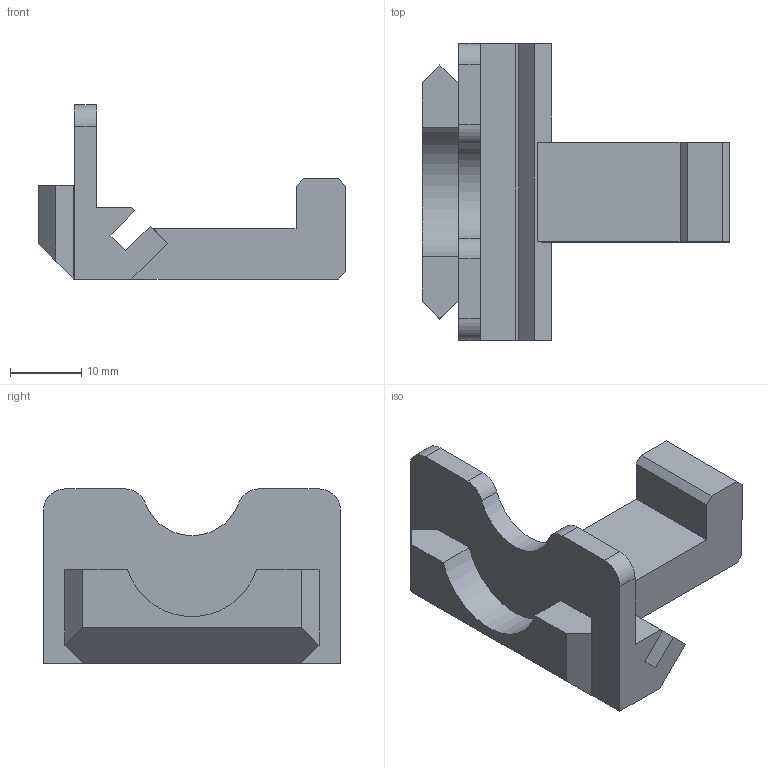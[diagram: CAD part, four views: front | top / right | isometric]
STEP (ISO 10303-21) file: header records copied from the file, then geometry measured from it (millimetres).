
FILE_DESCRIPTION(/* description */ ('','CAx-IF Rec.Pracs.---Representation and Presentation of Product Manufacturing Information (PMI)---4.0---2014-10-13'),/* implementation_level */ '2;1');
FILE_NAME(/* name */ 'Shelf Support Plate with Hook.step',/* time_stamp */ '2024-11-28T18:59:20-05:00',/* author */ (''),/* organization */ (''),/* preprocessor_version */ 'ST-DEVELOPER v20',/* originating_system */ 'Autodesk Translation Framework v13.20.0.188',/* authorisation */ '');
FILE_SCHEMA (('AP242_MANAGED_MODEL_BASED_3D_ENGINEERING_MIM_LF { 1 0 10303 442 1 1 4 }'));
Length unit declared in the file: millimetre
Products named in the file (1): Shelf Support Plate with Hook
Bounding box: 43.15 x 41.6 x 24.39 mm (x, y, z)
Volume: 10006.5 mm3; surface area: 5246.9 mm2
Topology: 1 solids, 1 shells, 41 faces, 112 edges, 74 vertices
Faces by surface type: plane 35, cylinder 6
Entity records: 1315 total; most frequent: CARTESIAN_POINT 228, ORIENTED_EDGE 224, DIRECTION 208, EDGE_CURVE 112, LINE 100, VECTOR 100, VERTEX_POINT 74, AXIS2_PLACEMENT_3D 54
